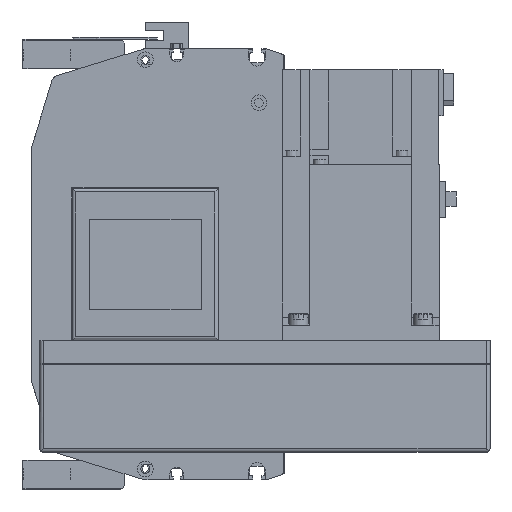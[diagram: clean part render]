
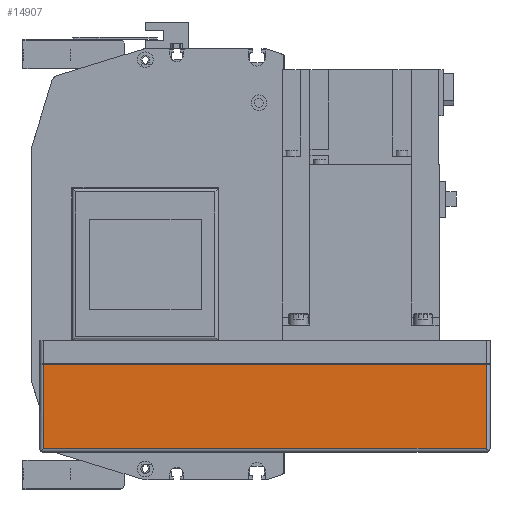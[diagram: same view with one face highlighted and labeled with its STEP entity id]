
A CAD part, left-side view. The second image highlights one B-rep face of the part: STEP entity #14907.
In plain terms, the highlighted planar face has unit normal (-1, 0, 0) as drawn and (0, 1, 0) by its records, which use the part's own axes.
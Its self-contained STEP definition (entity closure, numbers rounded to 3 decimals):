
#2532=ORIENTED_EDGE('',*,*,#6070,.F.);
#2533=ORIENTED_EDGE('',*,*,#6010,.T.);
#2534=ORIENTED_EDGE('',*,*,#6071,.F.);
#2535=ORIENTED_EDGE('',*,*,#6005,.F.);
#6005=EDGE_CURVE('',#7920,#7921,#9462,.T.);
#6010=EDGE_CURVE('',#7926,#7925,#9464,.T.);
#6070=EDGE_CURVE('',#7926,#7920,#9507,.T.);
#6071=EDGE_CURVE('',#7921,#7925,#9508,.T.);
#7920=VERTEX_POINT('',#23207);
#7921=VERTEX_POINT('',#23209);
#7925=VERTEX_POINT('',#23218);
#7926=VERTEX_POINT('',#23220);
#9462=LINE('',#23208,#10813);
#9464=LINE('',#23219,#10815);
#9507=LINE('',#23342,#10858);
#9508=LINE('',#23343,#10859);
#10813=VECTOR('',#18530,1000.);
#10815=VECTOR('',#18540,1000.);
#10858=VECTOR('',#18661,1000.);
#10859=VECTOR('',#18662,1000.);
#12018=EDGE_LOOP('',(#2532,#2533,#2534,#2535));
#13225=FACE_BOUND('',#12018,.T.);
#14270=PLANE('',#16007);
#14907=ADVANCED_FACE('',(#13225),#14270,.T.);
#16007=AXIS2_PLACEMENT_3D('',#23341,#18659,#18660);
#18530=DIRECTION('',(0.,0.,1.));
#18540=DIRECTION('',(0.,0.,1.));
#18659=DIRECTION('',(0.,1.,0.));
#18660=DIRECTION('',(0.,0.,1.));
#18661=DIRECTION('',(1.,0.,0.));
#18662=DIRECTION('',(-1.,0.,0.));
#23207=CARTESIAN_POINT('',(-2.,54.,-55.));
#23208=CARTESIAN_POINT('',(-2.,54.,-57.));
#23209=CARTESIAN_POINT('',(-2.,54.,-12.));
#23218=CARTESIAN_POINT('',(-228.,54.,-12.));
#23219=CARTESIAN_POINT('',(-228.,54.,-57.));
#23220=CARTESIAN_POINT('',(-228.,54.,-55.));
#23341=CARTESIAN_POINT('',(-2.,54.,-57.));
#23342=CARTESIAN_POINT('',(-230.,54.,-55.));
#23343=CARTESIAN_POINT('',(-2.,54.,-12.));
